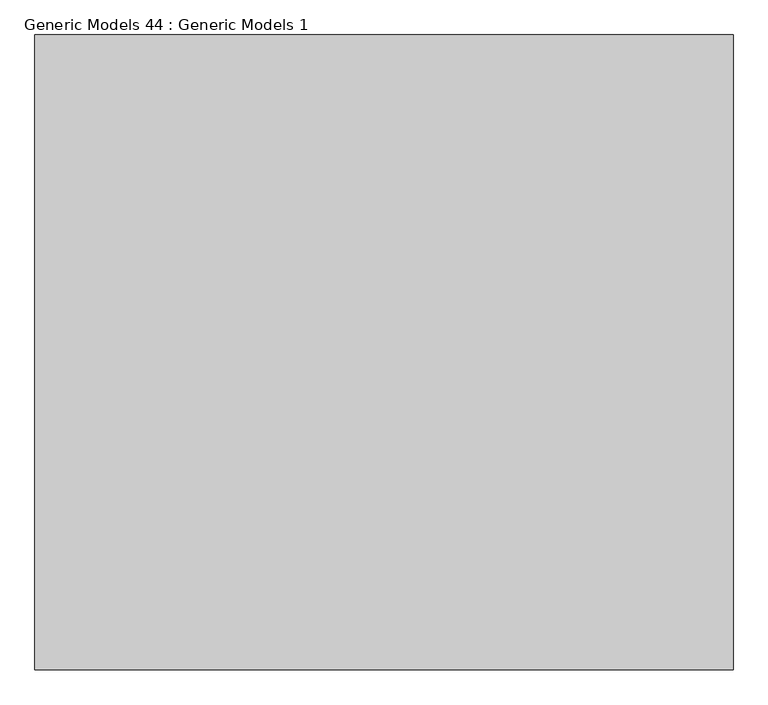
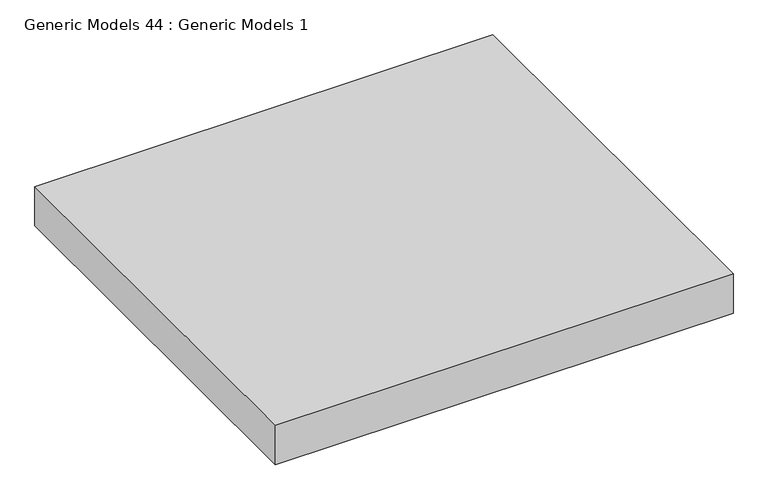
"""IFC4 building model written with IfcOpenShell, lengths in millimetres: proxy geometry, Generic Models 44 : Generic Models 1."""

from ifc_helpers import new_model, si_unit, origin, origin_with_axes, place, context, project, spatial, polyline, outline, extrude, source, transform, mapped, element, save


def generic_models_44_generic_models_1_6b9e85da(model_context):
    return source(origin(), model_context, "Body", "SweptSolid", [
        extrude(outline(polyline([(-5304.8268345, -5024.1855869), (-5304.8268345, -4024.1855869), (-4204.8268345, -4024.1855869), (-4204.8268345, -5024.1855869), (-5304.8268345, -5024.1855869)])), origin_with_axes(), (0.0, 0.0, 1.0), 100.0),
    ])


if __name__ == "__main__":
    model = new_model("IFC4")
    model_context = context("Model", 3, world=origin())
    ifc_project = project(units=[si_unit("LENGTHUNIT", "METRE", prefix="MILLI")], contexts=[model_context])
    site = spatial("IfcSite", under=ifc_project)
    building = spatial("IfcBuilding", under=site)
    placement = place(None, origin())
    generic_models_44_generic_models_1_shape = generic_models_44_generic_models_1_6b9e85da(model_context)
    element("IfcBuildingElementProxy", 1, Name="Generic Models 44 : Generic Models 1", ObjectType="Generic Models 44 : Generic Models 1", at=placement, inside=building, context=model_context, shape_type="MappedRepresentation", body=[
        mapped(generic_models_44_generic_models_1_shape, transform((0.0, 0.0, 0.0), x_axis=(1.0, 0.0, 0.0), y_axis=(0.0, 1.0, 0.0), z_axis=(0.0, 0.0, 1.0))),
    ])
    save(model, "model.ifc")
